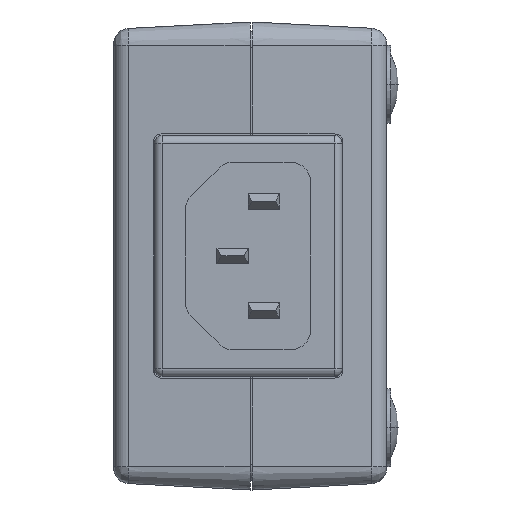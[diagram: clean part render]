
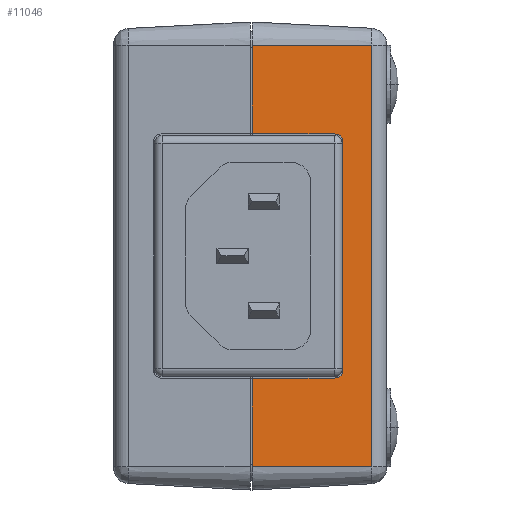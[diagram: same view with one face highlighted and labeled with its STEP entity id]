
A CAD part, left-side view. The second image highlights one B-rep face of the part: STEP entity #11046.
In plain terms, the highlighted planar face has unit normal (-0.999, -0.052, 0).
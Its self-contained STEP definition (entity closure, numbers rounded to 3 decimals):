
#6558=DIRECTION('',(0.,0.,-1.));
#6559=VECTOR('',#6558,11.267);
#6560=CARTESIAN_POINT('',(-75.,17.2,27.));
#6561=LINE('',#6560,#6559);
#6684=DIRECTION('',(-0.052,0.999,-0.009));
#6685=VECTOR('',#6684,10.624);
#6686=CARTESIAN_POINT('',(-74.444,6.591,
-15.641));
#6687=LINE('',#6686,#6685);
#6700=CARTESIAN_POINT('',(-74.444,6.591,
-15.641));
#6701=CARTESIAN_POINT('',(-74.427,6.261,
-15.638));
#6702=CARTESIAN_POINT('',(-74.405,5.849,
-15.385));
#6703=CARTESIAN_POINT('',(-74.392,5.6,-14.972));
#6704=CARTESIAN_POINT('',(-74.392,5.6,-14.641));
#6706=DIRECTION('',(0.,0.,1.));
#6707=VECTOR('',#6706,29.282);
#6708=CARTESIAN_POINT('',(-74.392,5.6,-14.641));
#6709=LINE('',#6708,#6707);
#6710=CARTESIAN_POINT('',(-74.392,5.6,14.641));
#6711=CARTESIAN_POINT('',(-74.392,5.6,14.972));
#6712=CARTESIAN_POINT('',(-74.405,5.849,15.385));
#6713=CARTESIAN_POINT('',(-74.427,6.261,15.638));
#6714=CARTESIAN_POINT('',(-74.444,6.591,15.641));
#6716=DIRECTION('',(-0.052,0.999,0.009));
#6717=VECTOR('',#6716,10.624);
#6718=CARTESIAN_POINT('',(-74.444,6.591,15.641));
#6719=LINE('',#6718,#6717);
#6720=DIRECTION('',(-0.052,0.999,0.));
#6721=VECTOR('',#6720,15.326);
#6722=CARTESIAN_POINT('',(-74.198,1.895,27.));
#6723=LINE('',#6722,#6721);
#6751=DIRECTION('',(0.,0.,1.));
#6752=VECTOR('',#6751,54.);
#6753=CARTESIAN_POINT('',(-74.198,1.895,
-27.));
#6754=LINE('',#6753,#6752);
#6816=DIRECTION('',(0.,0.,-1.));
#6817=VECTOR('',#6816,11.267);
#6818=CARTESIAN_POINT('',(-75.,17.2,-15.733));
#6819=LINE('',#6818,#6817);
#9648=DIRECTION('',(0.052,-0.999,0.));
#9649=VECTOR('',#9648,15.326);
#9650=CARTESIAN_POINT('',(-75.,17.2,-27.));
#9651=LINE('',#9650,#9649);
#9839=CARTESIAN_POINT('',(-75.,17.2,27.));
#9840=VERTEX_POINT('',#9839);
#9841=CARTESIAN_POINT('',(-75.,17.2,15.733));
#9842=VERTEX_POINT('',#9841);
#9901=CARTESIAN_POINT('',(-75.,17.2,-15.733));
#9902=VERTEX_POINT('',#9901);
#9903=CARTESIAN_POINT('',(-75.,17.2,-27.));
#9904=VERTEX_POINT('',#9903);
#9974=CARTESIAN_POINT('',(-74.444,6.591,15.641));
#9976=VERTEX_POINT('',#9974);
#9983=CARTESIAN_POINT('',(-74.392,5.6,14.641));
#9985=VERTEX_POINT('',#9983);
#9988=CARTESIAN_POINT('',(-74.392,5.6,-14.641));
#9990=VERTEX_POINT('',#9988);
#9991=CARTESIAN_POINT('',(-74.444,6.591,
-15.641));
#9993=VERTEX_POINT('',#9991);
#10003=CARTESIAN_POINT('',(-74.198,1.895,
27.));
#10004=VERTEX_POINT('',#10003);
#10005=CARTESIAN_POINT('',(-74.198,1.895,
-27.));
#10006=VERTEX_POINT('',#10005);
#11025=CARTESIAN_POINT('',(-75.,17.2,-30.133));
#11026=DIRECTION('',(-0.999,-0.052,0.));
#11027=DIRECTION('',(0.,0.,1.));
#11028=AXIS2_PLACEMENT_3D('',#11025,#11026,#11027);
#11029=PLANE('',#11028);
#11030=ORIENTED_EDGE('',*,*,#11004,.F.);
#11031=ORIENTED_EDGE('',*,*,#10993,.T.);
#11032=ORIENTED_EDGE('',*,*,#10978,.T.);
#11033=ORIENTED_EDGE('',*,*,#10963,.T.);
#11034=ORIENTED_EDGE('',*,*,#10948,.T.);
#11035=ORIENTED_EDGE('',*,*,#10803,.F.);
#11037=ORIENTED_EDGE('',*,*,#11036,.F.);
#11039=ORIENTED_EDGE('',*,*,#11038,.F.);
#11041=ORIENTED_EDGE('',*,*,#11040,.F.);
#11043=ORIENTED_EDGE('',*,*,#11042,.F.);
#11044=EDGE_LOOP('',(#11030,#11031,#11032,#11033,#11034,#11035,#11037,#11039,
#11041,#11043));
#11045=FACE_OUTER_BOUND('',#11044,.F.);
#6705=B_SPLINE_CURVE_WITH_KNOTS('',3,(#6700,#6701,#6702,#6703,#6704),
.UNSPECIFIED.,.F.,.F.,(4,1,4),(0.,0.5,1.),.UNSPECIFIED.);
#6715=B_SPLINE_CURVE_WITH_KNOTS('',3,(#6710,#6711,#6712,#6713,#6714),
.UNSPECIFIED.,.F.,.F.,(4,1,4),(0.,0.5,1.),.UNSPECIFIED.);
#10803=EDGE_CURVE('',#9840,#9842,#6561,.T.);
#10948=EDGE_CURVE('',#9976,#9842,#6719,.T.);
#10963=EDGE_CURVE('',#9985,#9976,#6715,.T.);
#10978=EDGE_CURVE('',#9990,#9985,#6709,.T.);
#10993=EDGE_CURVE('',#9993,#9990,#6705,.T.);
#11004=EDGE_CURVE('',#9993,#9902,#6687,.T.);
#11036=EDGE_CURVE('',#10004,#9840,#6723,.T.);
#11038=EDGE_CURVE('',#10006,#10004,#6754,.T.);
#11040=EDGE_CURVE('',#9904,#10006,#9651,.T.);
#11042=EDGE_CURVE('',#9902,#9904,#6819,.T.);
#11046=ADVANCED_FACE('',(#11045),#11029,.T.);
